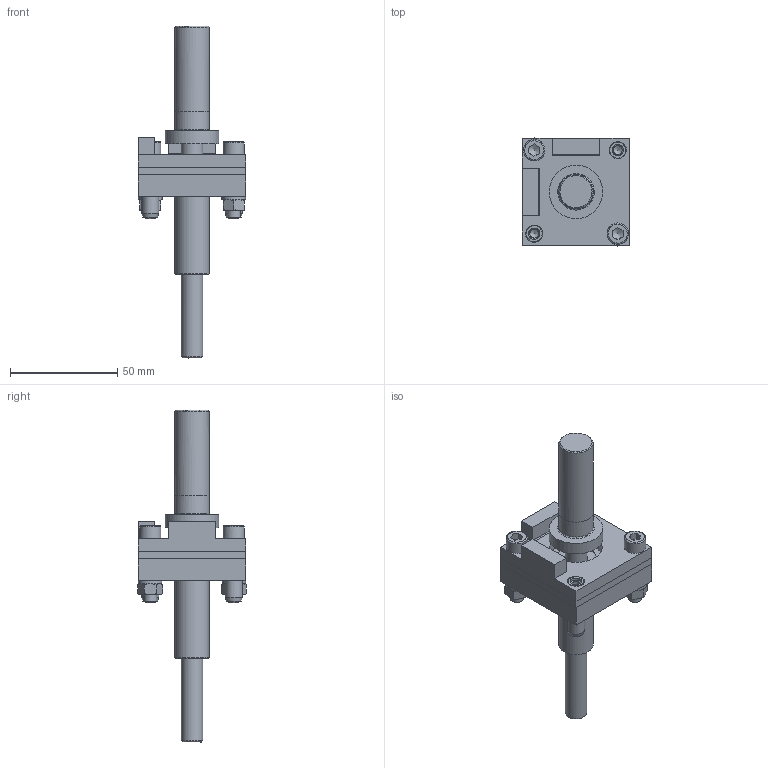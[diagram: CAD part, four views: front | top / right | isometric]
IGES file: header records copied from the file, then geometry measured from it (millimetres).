
Global section: file name: 07.00-SF; native system: Autodesk Inventor 2019; preprocessor: unknown; author: AP.to; date: 20201102.101352; units: millimetre
Bounding box: 50 x 50.55 x 155 mm (x, y, z)
Volume: 68552.8 mm3; surface area: 38123.5 mm2
Topology: 14 solids, 14 shells, 187 faces, 467 edges, 320 vertices
Faces by surface type: bspline 187
